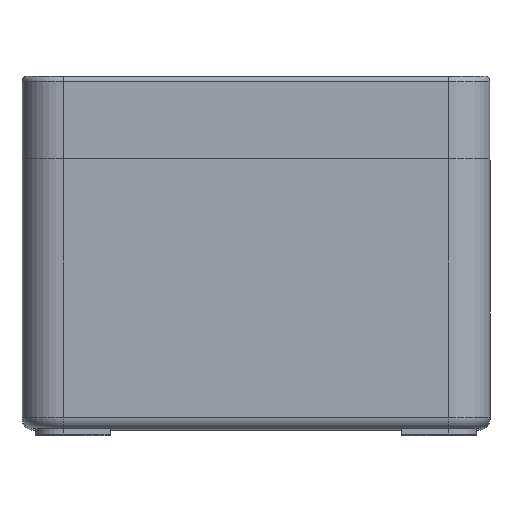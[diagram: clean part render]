
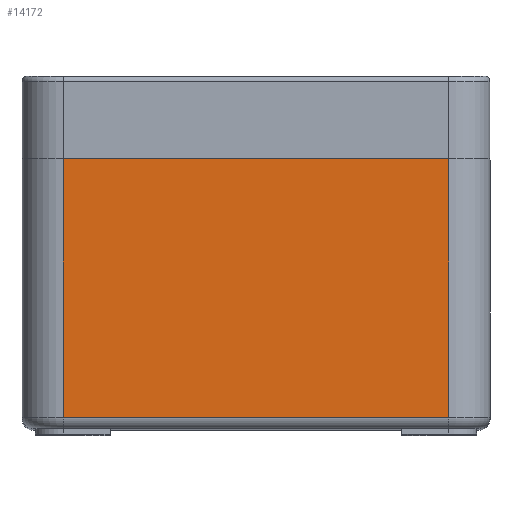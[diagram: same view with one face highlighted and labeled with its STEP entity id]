
A CAD part, top view. The second image highlights one B-rep face of the part: STEP entity #14172.
In plain terms, the highlighted planar face has unit normal (0, 0, 1).
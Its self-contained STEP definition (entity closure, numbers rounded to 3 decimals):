
#99 = PLANE ( 'NONE',  #6930 ) ;
#1558 = DIRECTION ( 'NONE',  ( 1., 0., 0. ) ) ;
#1871 = EDGE_CURVE ( 'NONE', #2982, #15790, #10323, .T. ) ;
#2134 = DIRECTION ( 'NONE',  ( 0., 0., 1. ) ) ;
#2454 = EDGE_CURVE ( 'NONE', #16479, #15790, #2917, .T. ) ;
#2639 = EDGE_LOOP ( 'NONE', ( #23881, #11654, #20326, #23299 ) ) ;
#2917 = LINE ( 'NONE', #15501, #12895 ) ;
#2982 = VERTEX_POINT ( 'NONE', #3256 ) ;
#3256 = CARTESIAN_POINT ( 'NONE',  ( -35., 0., 100. ) ) ;
#3852 = DIRECTION ( 'NONE',  ( 0., 1., 0. ) ) ;
#5086 = VECTOR ( 'NONE', #17100, 1000. ) ;
#5685 = VECTOR ( 'NONE', #1558, 1000. ) ;
#6315 = LINE ( 'NONE', #9478, #5685 ) ;
#6930 = AXIS2_PLACEMENT_3D ( 'NONE', #14100, #2134, #16148 ) ;
#8793 = CARTESIAN_POINT ( 'NONE',  ( 35., -47., 100. ) ) ;
#9478 = CARTESIAN_POINT ( 'NONE',  ( 35., -47., 100. ) ) ;
#10323 = LINE ( 'NONE', #21060, #5086 ) ;
#11654 = ORIENTED_EDGE ( 'NONE', *, *, #11880, .T. ) ;
#11880 = EDGE_CURVE ( 'NONE', #15473, #16479, #6315, .T. ) ;
#11920 = EDGE_CURVE ( 'NONE', #15473, #2982, #17406, .T. ) ;
#12115 = CARTESIAN_POINT ( 'NONE',  ( 35., 0., 100. ) ) ;
#12895 = VECTOR ( 'NONE', #17564, 1000. ) ;
#14100 = CARTESIAN_POINT ( 'NONE',  ( -35., -49., 100. ) ) ;
#14172 = ADVANCED_FACE ( 'NONE', ( #24091 ), #99, .T. ) ;
#15473 = VERTEX_POINT ( 'NONE', #22693 ) ;
#15501 = CARTESIAN_POINT ( 'NONE',  ( 35., -49., 100. ) ) ;
#15790 = VERTEX_POINT ( 'NONE', #12115 ) ;
#16148 = DIRECTION ( 'NONE',  ( 1., 0., 0. ) ) ;
#16479 = VERTEX_POINT ( 'NONE', #8793 ) ;
#16765 = VECTOR ( 'NONE', #3852, 1000. ) ;
#17100 = DIRECTION ( 'NONE',  ( 1., 0., 0. ) ) ;
#17406 = LINE ( 'NONE', #20015, #16765 ) ;
#17564 = DIRECTION ( 'NONE',  ( 0., 1., 0. ) ) ;
#20015 = CARTESIAN_POINT ( 'NONE',  ( -35., -49., 100. ) ) ;
#20326 = ORIENTED_EDGE ( 'NONE', *, *, #2454, .T. ) ;
#21060 = CARTESIAN_POINT ( 'NONE',  ( -35., 0., 100. ) ) ;
#22693 = CARTESIAN_POINT ( 'NONE',  ( -35., -47., 100. ) ) ;
#23299 = ORIENTED_EDGE ( 'NONE', *, *, #1871, .F. ) ;
#23881 = ORIENTED_EDGE ( 'NONE', *, *, #11920, .F. ) ;
#24091 = FACE_OUTER_BOUND ( 'NONE', #2639, .T. ) ;
